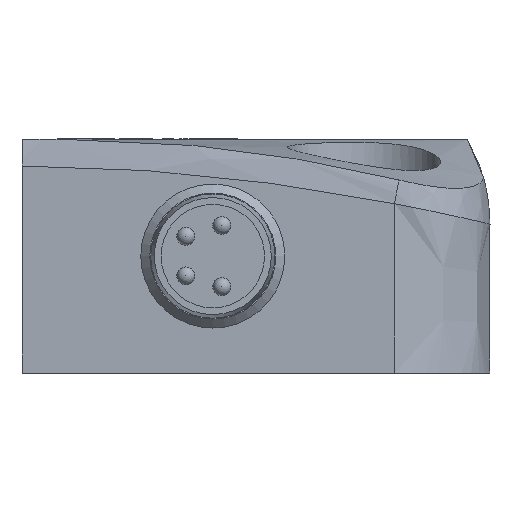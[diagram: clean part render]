
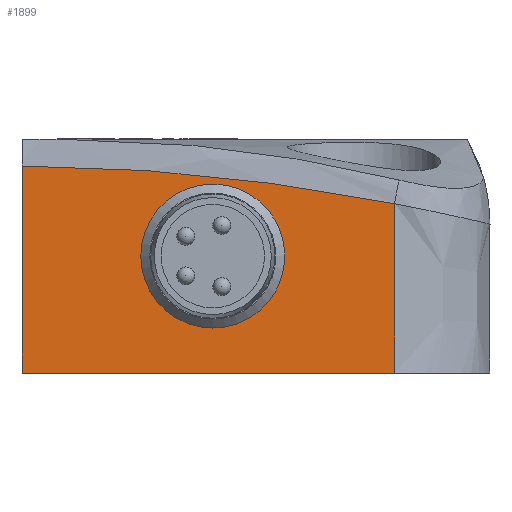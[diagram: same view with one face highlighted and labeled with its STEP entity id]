
A CAD part, left-side view. The second image highlights one B-rep face of the part: STEP entity #1899.
In plain terms, the highlighted planar face has unit normal (-1, 0, 0).
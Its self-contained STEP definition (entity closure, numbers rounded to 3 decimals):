
#38=FACE_BOUND('',#311,.T.);
#85=B_SPLINE_CURVE_WITH_KNOTS('',3,(#3121,#3122,#3123,#3124),
 .UNSPECIFIED.,.F.,.F.,(4,4),(0.,1.),.UNSPECIFIED.);
#134=CIRCLE('',#2018,3.4);
#197=FACE_OUTER_BOUND('',#310,.T.);
#310=EDGE_LOOP('',(#1343,#1344,#1345,#1346));
#311=EDGE_LOOP('',(#1347));
#465=LINE('',#3863,#648);
#469=LINE('',#3921,#652);
#470=LINE('',#3922,#653);
#648=VECTOR('',#2202,1.);
#652=VECTOR('',#2208,1.);
#653=VECTOR('',#2209,10.);
#838=VERTEX_POINT('',#3107);
#839=VERTEX_POINT('',#3120);
#844=VERTEX_POINT('',#3861);
#850=VERTEX_POINT('',#3920);
#851=VERTEX_POINT('',#3923);
#1040=EDGE_CURVE('',#838,#839,#85,.T.);
#1048=EDGE_CURVE('',#844,#838,#465,.T.);
#1056=EDGE_CURVE('',#844,#850,#469,.T.);
#1057=EDGE_CURVE('',#850,#839,#470,.F.);
#1058=EDGE_CURVE('',#851,#851,#134,.T.);
#1343=ORIENTED_EDGE('',*,*,#1040,.F.);
#1344=ORIENTED_EDGE('',*,*,#1048,.F.);
#1345=ORIENTED_EDGE('',*,*,#1056,.T.);
#1346=ORIENTED_EDGE('',*,*,#1057,.T.);
#1347=ORIENTED_EDGE('',*,*,#1058,.T.);
#1820=PLANE('',#2017);
#1899=ADVANCED_FACE('',(#197,#38),#1820,.T.);
#2017=AXIS2_PLACEMENT_3D('',#3919,#2206,#2207);
#2018=AXIS2_PLACEMENT_3D('',#3924,#2210,#2211);
#2202=DIRECTION('',(0.,0.,1.));
#2206=DIRECTION('center_axis',(-1.,0.,0.));
#2207=DIRECTION('ref_axis',(0.,0.,1.));
#2208=DIRECTION('',(0.,-1.,0.));
#2209=DIRECTION('',(0.,0.,-1.));
#2210=DIRECTION('center_axis',(1.,0.,0.));
#2211=DIRECTION('ref_axis',(0.,-1.,0.));
#3107=CARTESIAN_POINT('',(-26.754,3.469,3.224));
#3120=CARTESIAN_POINT('',(-26.754,-17.231,1.136));
#3121=CARTESIAN_POINT('Ctrl Pts',(-26.754,3.469,3.224));
#3122=CARTESIAN_POINT('Ctrl Pts',(-26.754,-3.478,3.223));
#3123=CARTESIAN_POINT('Ctrl Pts',(-26.754,-10.413,2.453));
#3124=CARTESIAN_POINT('Ctrl Pts',(-26.754,-17.231,1.136));
#3861=CARTESIAN_POINT('',(-26.754,3.469,-8.276));
#3863=CARTESIAN_POINT('',(-26.754,3.469,-2.151));
#3919=CARTESIAN_POINT('Origin',(-26.754,-6.881,-2.526));
#3920=CARTESIAN_POINT('',(-26.754,-17.231,-8.276));
#3921=CARTESIAN_POINT('',(-26.754,-8.46,-8.276));
#3922=CARTESIAN_POINT('',(-26.754,-17.231,1.136));
#3923=CARTESIAN_POINT('',(-26.754,-10.531,-1.776));
#3924=CARTESIAN_POINT('Origin',(-26.754,-7.131,-1.776));
